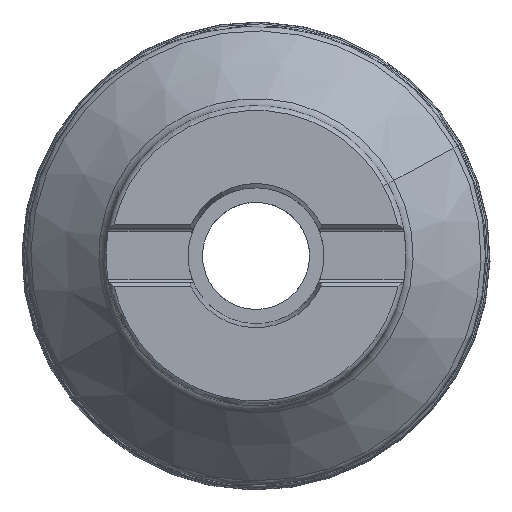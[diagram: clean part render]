
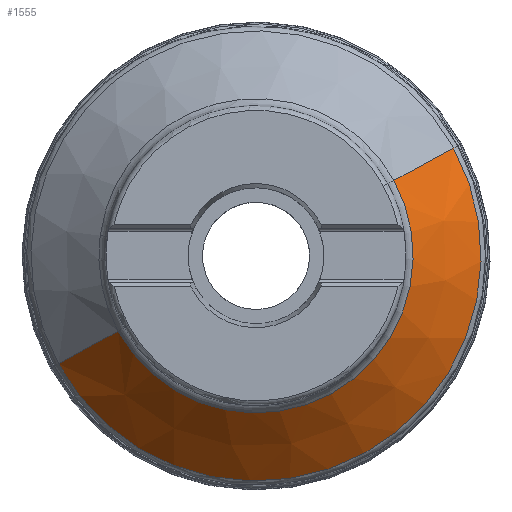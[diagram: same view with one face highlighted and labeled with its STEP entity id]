
A CAD part, top view. The second image highlights one B-rep face of the part: STEP entity #1555.
In plain terms, the highlighted conical face has half-angle 43.834 degrees and reference radius 35 mm.
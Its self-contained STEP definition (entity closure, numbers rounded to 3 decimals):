
#1357=AXIS2_PLACEMENT_3D('Circle Axis2P3D',#1355,#1356,$) ;
#1528=AXIS2_PLACEMENT_3D('Cone Axis2P3D',#1525,#1526,#1527) ;
#1539=AXIS2_PLACEMENT_3D('Circle Axis2P3D',#1537,#1538,$) ;
#1352=CARTESIAN_POINT('Vertex',(-32.183,-17.581,-21.741)) ;
#1355=CARTESIAN_POINT('Axis2P3D Location',(0.,0.,-21.741)) ;
#1359=CARTESIAN_POINT('Vertex',(32.183,17.581,-21.741)) ;
#1525=CARTESIAN_POINT('Axis2P3D Location',(0.,0.,-20.)) ;
#1530=CARTESIAN_POINT('Line Origine',(-303910.025,-166026.803,-360676.027)) ;
#1534=CARTESIAN_POINT('Vertex',(-46.1,-25.184,-38.259)) ;
#1537=CARTESIAN_POINT('Axis2P3D Location',(0.,0.,-38.259)) ;
#1541=CARTESIAN_POINT('Vertex',(46.1,25.184,-38.259)) ;
#1544=CARTESIAN_POINT('Line Origine',(303910.025,166026.803,-360676.027)) ;
#1356=DIRECTION('Axis2P3D Direction',(0.,0.,1.)) ;
#1526=DIRECTION('Axis2P3D Direction',(-0.,-0.,-1.)) ;
#1527=DIRECTION('Axis2P3D XDirection',(0.878,0.479,0.)) ;
#1531=DIRECTION('Vector Direction',(-0.608,-0.332,-0.721)) ;
#1538=DIRECTION('Axis2P3D Direction',(-0.,0.,-1.)) ;
#1545=DIRECTION('Vector Direction',(0.608,0.332,-0.721)) ;
#1532=VECTOR('Line Direction',#1531,1.) ;
#1546=VECTOR('Line Direction',#1545,1.) ;
#1550=ORIENTED_EDGE('',*,*,#1536,.F.) ;
#1551=ORIENTED_EDGE('',*,*,#1543,.T.) ;
#1552=ORIENTED_EDGE('',*,*,#1548,.T.) ;
#1553=ORIENTED_EDGE('',*,*,#1361,.T.) ;
#1555=ADVANCED_FACE('NOCUT',(#1554),#1529,.T.) ;
#1358=CIRCLE('generated circle',#1357,36.672) ;
#1540=CIRCLE('generated circle',#1539,52.53) ;
#1529=CONICAL_SURFACE('Cone',#1528,35.,0.765) ;
#1361=EDGE_CURVE('',#1360,#1353,#1358,.F.) ;
#1536=EDGE_CURVE('',#1535,#1353,#1533,.F.) ;
#1543=EDGE_CURVE('',#1535,#1542,#1540,.F.) ;
#1548=EDGE_CURVE('',#1542,#1360,#1547,.F.) ;
#1549=EDGE_LOOP('',(#1550,#1551,#1552,#1553)) ;
#1554=FACE_OUTER_BOUND('',#1549,.T.) ;
#1533=LINE('Line',#1530,#1532) ;
#1547=LINE('Line',#1544,#1546) ;
#1353=VERTEX_POINT('',#1352) ;
#1360=VERTEX_POINT('',#1359) ;
#1535=VERTEX_POINT('',#1534) ;
#1542=VERTEX_POINT('',#1541) ;
